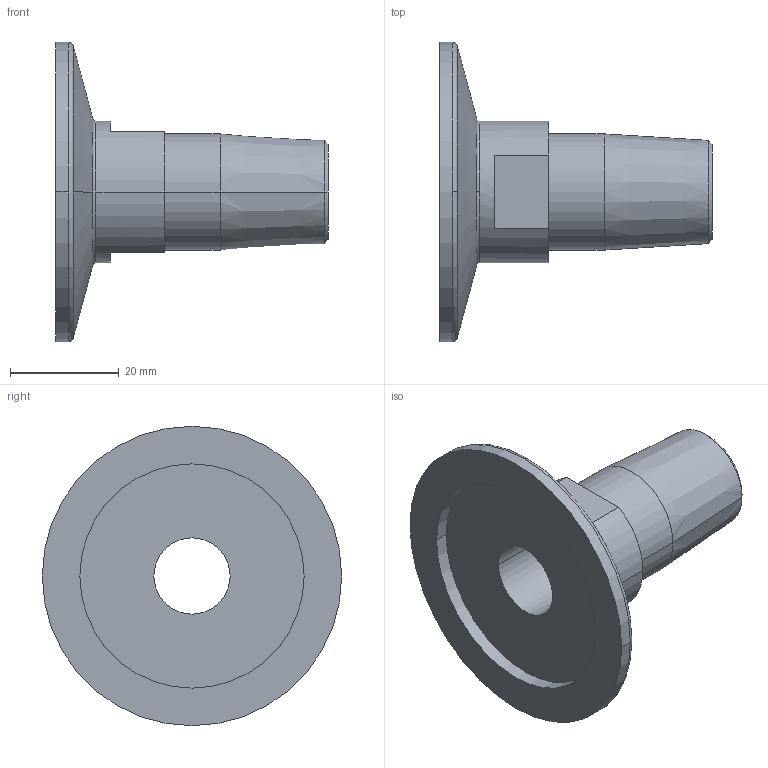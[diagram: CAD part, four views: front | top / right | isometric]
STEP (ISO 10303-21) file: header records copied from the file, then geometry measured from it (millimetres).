
FILE_DESCRIPTION((''),'2;1');
FILE_NAME('W:\211-560.stp','2003-10-13T12:48:26',('KAA'),(''),'Autodesk Inventor (R) 6.0','Autodesk Inventor (R) 6.0','');
FILE_SCHEMA(('CONFIG_CONTROL_DESIGN'));
Length unit declared in the file: millimetre
Products named in the file (1): 211-560
Bounding box: 50 x 55 x 55 mm (x, y, z)
Volume: 18222.8 mm3; surface area: 10281.8 mm2
Topology: 1 solids, 1 shells, 28 faces, 68 edges, 44 vertices
Faces by surface type: cylinder 10, plane 8, cone 6, torus 2, bspline 2
Entity records: 1023 total; most frequent: CARTESIAN_POINT 229, DIRECTION 166, ORIENTED_EDGE 136, AXIS2_PLACEMENT_3D 71, EDGE_CURVE 68, VERTEX_POINT 44, CIRCLE 44, EDGE_LOOP 32
